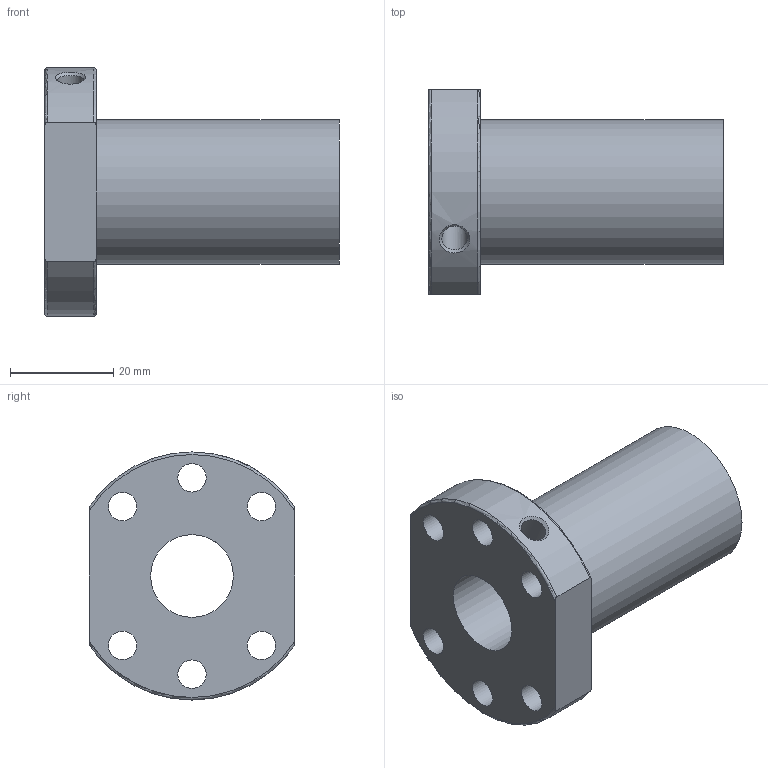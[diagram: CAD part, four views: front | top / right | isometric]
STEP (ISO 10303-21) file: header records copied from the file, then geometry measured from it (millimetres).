
FILE_DESCRIPTION(/* description */ (''),/* implementation_level */ '2;1');
FILE_NAME(/* name */ 'C:\Users\David Dillkötter\ownCloud\Kamp und Kötter\Artikel\Kugelumlaufspindel SFU1610\02_STEP-Dateien\SpindelmutterSFU1610_MJ2020.stp',/* time_stamp */ '2020-08-25T16:10:47+02:00',/* author */ ('David Dillkötter'),/* organization */ (''),/* preprocessor_version */ 'ST-DEVELOPER v18.1',/* originating_system */ 'Autodesk Inventor 2021',/* authorisation */ '');
FILE_SCHEMA (('AUTOMOTIVE_DESIGN { 1 0 10303 214 3 1 1 }'));
Length unit declared in the file: millimetre
Products named in the file (1): SpindelmutterSFU1605_MJ2020
Bounding box: 57 x 39.7 x 48 mm (x, y, z)
Volume: 32311.9 mm3; surface area: 12304 mm2
Topology: 1 solids, 1 shells, 21 faces, 55 edges, 37 vertices
Faces by surface type: cylinder 11, plane 5, torus 4, bspline 1
Full cylindrical faces by diameter (mm): 4.917 x1, 5.5 x6, 16 x1, 28 x1
Entity records: 949 total; most frequent: CARTESIAN_POINT 358, ORIENTED_EDGE 110, DIRECTION 108, EDGE_CURVE 55, AXIS2_PLACEMENT_3D 45, EDGE_LOOP 38, VERTEX_POINT 37, CIRCLE 24
